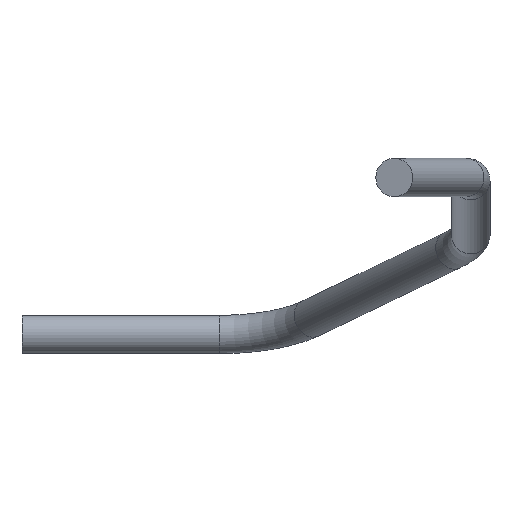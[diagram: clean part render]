
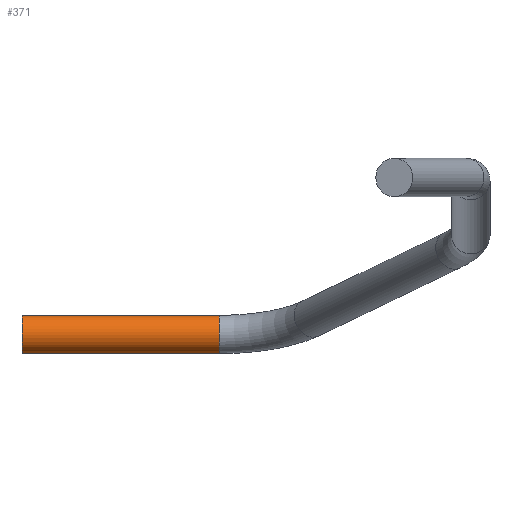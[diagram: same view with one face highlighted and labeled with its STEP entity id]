
A CAD part, front view. The second image highlights one B-rep face of the part: STEP entity #371.
In plain terms, the highlighted cylindrical face has radius 0.525 mm (diameter 1.05 mm), a full revolution.
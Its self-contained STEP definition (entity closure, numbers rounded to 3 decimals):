
#305 = TOROIDAL_SURFACE('',#306,3.,0.525);
#306 = AXIS2_PLACEMENT_3D('',#307,#308,#309);
#307 = CARTESIAN_POINT('',(27.108,20.564,
    -10.273));
#308 = DIRECTION('',(0.,0.326,0.945));
#309 = DIRECTION('',(0.828,0.53,-0.183));
#322 = VERTEX_POINT('',#323);
#323 = CARTESIAN_POINT('',(27.108,23.9,
    -11.411));
#344 = EDGE_CURVE('',#322,#322,#345,.T.);
#345 = SURFACE_CURVE('',#346,(#351,#358),.PCURVE_S1.);
#346 = CIRCLE('',#347,0.525);
#347 = AXIS2_PLACEMENT_3D('',#348,#349,#350);
#348 = CARTESIAN_POINT('',(27.108,23.4,-11.25));
#349 = DIRECTION('',(1.,0.,0.));
#350 = DIRECTION('',(0.,0.945,-0.326)
  );
#351 = PCURVE('',#305,#352);
#352 = DEFINITIONAL_REPRESENTATION('',(#353),#357);
#353 = LINE('',#354,#355);
#354 = CARTESIAN_POINT('',(0.976,0.));
#355 = VECTOR('',#356,1.);
#356 = DIRECTION('',(0.,1.));
#357 = ( GEOMETRIC_REPRESENTATION_CONTEXT(2) 
PARAMETRIC_REPRESENTATION_CONTEXT() REPRESENTATION_CONTEXT('2D SPACE',''
  ) );
#358 = PCURVE('',#359,#364);
#359 = CYLINDRICAL_SURFACE('',#360,0.525);
#360 = AXIS2_PLACEMENT_3D('',#361,#362,#363);
#361 = CARTESIAN_POINT('',(27.108,23.4,-11.25));
#362 = DIRECTION('',(-1.,0.,0.));
#363 = DIRECTION('',(0.,0.952,-0.307));
#364 = DEFINITIONAL_REPRESENTATION('',(#365),#368);
#365 = B_SPLINE_CURVE_WITH_KNOTS('',1,(#366,#367),.UNSPECIFIED.,.F.,.F.,
  (2,2),(0.02,6.303),.PIECEWISE_BEZIER_KNOTS.);
#366 = CARTESIAN_POINT('',(6.283,0.));
#367 = CARTESIAN_POINT('',(0.,0.));
#368 = ( GEOMETRIC_REPRESENTATION_CONTEXT(2) 
PARAMETRIC_REPRESENTATION_CONTEXT() REPRESENTATION_CONTEXT('2D SPACE',''
  ) );
#371 = ADVANCED_FACE('',(#372),#359,.T.);
#372 = FACE_BOUND('',#373,.T.);
#373 = EDGE_LOOP('',(#374,#396,#423,#424));
#374 = ORIENTED_EDGE('',*,*,#375,.T.);
#375 = EDGE_CURVE('',#322,#376,#378,.T.);
#376 = VERTEX_POINT('',#377);
#377 = CARTESIAN_POINT('',(21.7,23.9,-11.411));
#378 = SEAM_CURVE('',#379,(#383,#389),.PCURVE_S1.);
#379 = LINE('',#380,#381);
#380 = CARTESIAN_POINT('',(27.108,23.9,
    -11.411));
#381 = VECTOR('',#382,1.);
#382 = DIRECTION('',(-1.,0.,0.));
#383 = PCURVE('',#359,#384);
#384 = DEFINITIONAL_REPRESENTATION('',(#385),#388);
#385 = B_SPLINE_CURVE_WITH_KNOTS('',1,(#386,#387),.UNSPECIFIED.,.F.,.F.,
  (2,2),(0.,5.408),.PIECEWISE_BEZIER_KNOTS.);
#386 = CARTESIAN_POINT('',(6.283,0.));
#387 = CARTESIAN_POINT('',(6.283,5.408));
#388 = ( GEOMETRIC_REPRESENTATION_CONTEXT(2) 
PARAMETRIC_REPRESENTATION_CONTEXT() REPRESENTATION_CONTEXT('2D SPACE',''
  ) );
#389 = PCURVE('',#359,#390);
#390 = DEFINITIONAL_REPRESENTATION('',(#391),#395);
#391 = LINE('',#392,#393);
#392 = CARTESIAN_POINT('',(0.,0.));
#393 = VECTOR('',#394,1.);
#394 = DIRECTION('',(0.,1.));
#395 = ( GEOMETRIC_REPRESENTATION_CONTEXT(2) 
PARAMETRIC_REPRESENTATION_CONTEXT() REPRESENTATION_CONTEXT('2D SPACE',''
  ) );
#396 = ORIENTED_EDGE('',*,*,#397,.F.);
#397 = EDGE_CURVE('',#376,#376,#398,.T.);
#398 = SURFACE_CURVE('',#399,(#404,#411),.PCURVE_S1.);
#399 = CIRCLE('',#400,0.525);
#400 = AXIS2_PLACEMENT_3D('',#401,#402,#403);
#401 = CARTESIAN_POINT('',(21.7,23.4,-11.25));
#402 = DIRECTION('',(-1.,0.,0.));
#403 = DIRECTION('',(0.,0.952,-0.307));
#404 = PCURVE('',#359,#405);
#405 = DEFINITIONAL_REPRESENTATION('',(#406),#410);
#406 = LINE('',#407,#408);
#407 = CARTESIAN_POINT('',(0.,5.408));
#408 = VECTOR('',#409,1.);
#409 = DIRECTION('',(1.,0.));
#410 = ( GEOMETRIC_REPRESENTATION_CONTEXT(2) 
PARAMETRIC_REPRESENTATION_CONTEXT() REPRESENTATION_CONTEXT('2D SPACE',''
  ) );
#411 = PCURVE('',#412,#417);
#412 = PLANE('',#413);
#413 = AXIS2_PLACEMENT_3D('',#414,#415,#416);
#414 = CARTESIAN_POINT('',(21.7,23.4,-11.25));
#415 = DIRECTION('',(-1.,-0.,-0.));
#416 = DIRECTION('',(0.,0.,-1.));
#417 = DEFINITIONAL_REPRESENTATION('',(#418),#422);
#418 = CIRCLE('',#419,0.525);
#419 = AXIS2_PLACEMENT_2D('',#420,#421);
#420 = CARTESIAN_POINT('',(0.,0.));
#421 = DIRECTION('',(0.307,-0.952));
#422 = ( GEOMETRIC_REPRESENTATION_CONTEXT(2) 
PARAMETRIC_REPRESENTATION_CONTEXT() REPRESENTATION_CONTEXT('2D SPACE',''
  ) );
#423 = ORIENTED_EDGE('',*,*,#375,.F.);
#424 = ORIENTED_EDGE('',*,*,#344,.F.);
